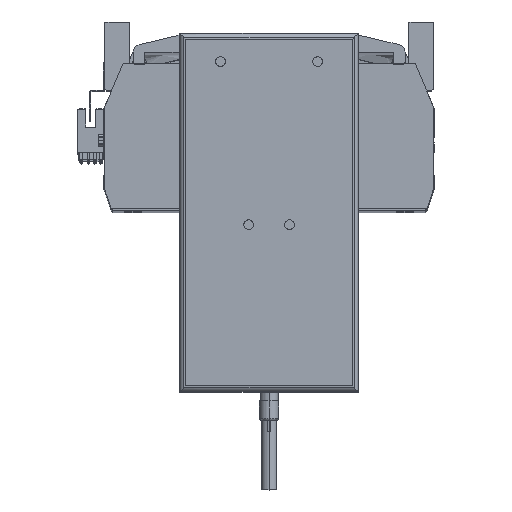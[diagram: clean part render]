
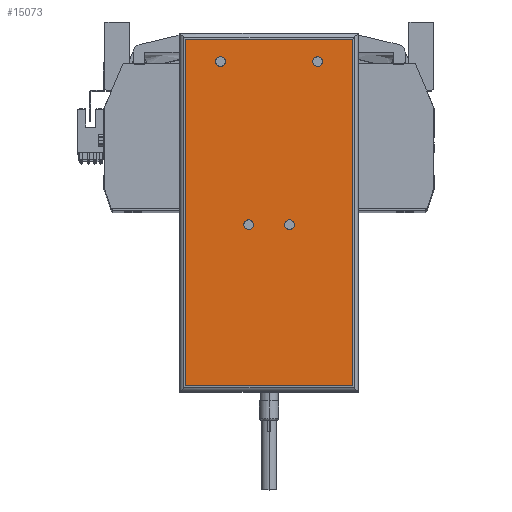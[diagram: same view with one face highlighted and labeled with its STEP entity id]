
A CAD part, top view. The second image highlights one B-rep face of the part: STEP entity #15073.
In plain terms, the highlighted planar face has unit normal (0, 0, 1) as drawn and (0, 0, -1) by its records, which use the part's own axes.
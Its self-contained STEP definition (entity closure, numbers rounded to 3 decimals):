
#243 = CARTESIAN_POINT ( 'NONE',  ( -8., -6.25, 0. ) ) ;
#303 = CARTESIAN_POINT ( 'NONE',  ( -43., -89.25, 0. ) ) ;
#1317 = CIRCLE ( 'NONE', #20895, 2.5 ) ;
#1759 = DIRECTION ( 'NONE',  ( -1., 0., 0. ) ) ;
#1980 = DIRECTION ( 'NONE',  ( 0., 0., -1. ) ) ;
#2183 = DIRECTION ( 'NONE',  ( 1., 0., 0. ) ) ;
#2535 = CARTESIAN_POINT ( 'NONE',  ( -46., 89.25, 0. ) ) ;
#2819 = VERTEX_POINT ( 'NONE', #6507 ) ;
#3777 = EDGE_LOOP ( 'NONE', ( #29720, #37623 ) ) ;
#4108 = CIRCLE ( 'NONE', #26205, 2.5 ) ;
#4804 = ORIENTED_EDGE ( 'NONE', *, *, #35329, .F. ) ;
#5336 = AXIS2_PLACEMENT_3D ( 'NONE', #9929, #21470, #41698 ) ;
#5405 = EDGE_CURVE ( 'NONE', #17069, #5987, #39876, .T. ) ;
#5489 = VECTOR ( 'NONE', #13042, 1000. ) ;
#5766 = VERTEX_POINT ( 'NONE', #18197 ) ;
#5890 = VERTEX_POINT ( 'NONE', #14776 ) ;
#5987 = VERTEX_POINT ( 'NONE', #11687 ) ;
#6127 = ORIENTED_EDGE ( 'NONE', *, *, #16906, .F. ) ;
#6215 = AXIS2_PLACEMENT_3D ( 'NONE', #45069, #21388, #1759 ) ;
#6507 = CARTESIAN_POINT ( 'NONE',  ( 8., -6.25, 0. ) ) ;
#6580 = LINE ( 'NONE', #2535, #41804 ) ;
#6918 = EDGE_CURVE ( 'NONE', #46617, #37135, #27904, .T. ) ;
#7371 = EDGE_CURVE ( 'NONE', #7482, #16079, #40201, .T. ) ;
#7390 = LINE ( 'NONE', #40881, #5489 ) ;
#7482 = VERTEX_POINT ( 'NONE', #37338 ) ;
#7593 = EDGE_LOOP ( 'NONE', ( #50857, #47401, #8064, #41775 ) ) ;
#7703 = CARTESIAN_POINT ( 'NONE',  ( -13., -6.25, 0. ) ) ;
#8064 = ORIENTED_EDGE ( 'NONE', *, *, #6918, .T. ) ;
#9585 = AXIS2_PLACEMENT_3D ( 'NONE', #16601, #44269, #48723 ) ;
#9929 = CARTESIAN_POINT ( 'NONE',  ( -25., 77.75, 0. ) ) ;
#10130 = VECTOR ( 'NONE', #42955, 1000. ) ;
#11314 = EDGE_CURVE ( 'NONE', #16079, #7482, #35579, .T. ) ;
#11687 = CARTESIAN_POINT ( 'NONE',  ( 22.5, 77.75, 0. ) ) ;
#11870 = CIRCLE ( 'NONE', #41001, 2.5 ) ;
#11877 = EDGE_LOOP ( 'NONE', ( #12821, #31296 ) ) ;
#12821 = ORIENTED_EDGE ( 'NONE', *, *, #19943, .F. ) ;
#13042 = DIRECTION ( 'NONE',  ( 0., -1., 0. ) ) ;
#14776 = CARTESIAN_POINT ( 'NONE',  ( 43., -89.25, 0. ) ) ;
#15073 = ADVANCED_FACE ( 'NONE', ( #38997, #33401, #16701, #47037, #36490 ), #24367, .F. ) ;
#16045 = CARTESIAN_POINT ( 'NONE',  ( 10.5, -6.25, 0. ) ) ;
#16079 = VERTEX_POINT ( 'NONE', #48289 ) ;
#16168 = EDGE_CURVE ( 'NONE', #31953, #5890, #7390, .T. ) ;
#16601 = CARTESIAN_POINT ( 'NONE',  ( -46., -92.25, 0. ) ) ;
#16701 = FACE_BOUND ( 'NONE', #37000, .T. ) ;
#16906 = EDGE_CURVE ( 'NONE', #5766, #2819, #36283, .T. ) ;
#17040 = AXIS2_PLACEMENT_3D ( 'NONE', #26998, #46884, #19203 ) ;
#17069 = VERTEX_POINT ( 'NONE', #30303 ) ;
#17780 = DIRECTION ( 'NONE',  ( -1., 0., 0. ) ) ;
#17954 = ORIENTED_EDGE ( 'NONE', *, *, #7371, .F. ) ;
#18197 = CARTESIAN_POINT ( 'NONE',  ( 13., -6.25, 0. ) ) ;
#19203 = DIRECTION ( 'NONE',  ( -1., 0., 0. ) ) ;
#19943 = EDGE_CURVE ( 'NONE', #20147, #33194, #26259, .T. ) ;
#20147 = VERTEX_POINT ( 'NONE', #7703 ) ;
#20362 = DIRECTION ( 'NONE',  ( -1., 0., 0. ) ) ;
#20842 = EDGE_CURVE ( 'NONE', #5890, #46617, #37288, .T. ) ;
#20895 = AXIS2_PLACEMENT_3D ( 'NONE', #45273, #1980, #17780 ) ;
#21388 = DIRECTION ( 'NONE',  ( 0., 0., -1. ) ) ;
#21470 = DIRECTION ( 'NONE',  ( 0., 0., -1. ) ) ;
#22118 = EDGE_CURVE ( 'NONE', #33194, #20147, #11870, .T. ) ;
#22449 = CARTESIAN_POINT ( 'NONE',  ( -10.5, -6.25, 0. ) ) ;
#23679 = DIRECTION ( 'NONE',  ( 0., 1., 0. ) ) ;
#23758 = DIRECTION ( 'NONE',  ( -1., 0., 0. ) ) ;
#24168 = CARTESIAN_POINT ( 'NONE',  ( -43., -92.25, 0. ) ) ;
#24367 = PLANE ( 'NONE',  #9585 ) ;
#25707 = DIRECTION ( 'NONE',  ( 0., 0., -1. ) ) ;
#26148 = DIRECTION ( 'NONE',  ( -1., 0., 0. ) ) ;
#26205 = AXIS2_PLACEMENT_3D ( 'NONE', #33557, #49968, #26148 ) ;
#26259 = CIRCLE ( 'NONE', #6215, 2.5 ) ;
#26998 = CARTESIAN_POINT ( 'NONE',  ( -25., 77.75, 0. ) ) ;
#27904 = LINE ( 'NONE', #24168, #47680 ) ;
#29720 = ORIENTED_EDGE ( 'NONE', *, *, #45786, .F. ) ;
#29987 = CARTESIAN_POINT ( 'NONE',  ( 43., 89.25, 0. ) ) ;
#30221 = DIRECTION ( 'NONE',  ( -1., 0., 0. ) ) ;
#30303 = CARTESIAN_POINT ( 'NONE',  ( 27.5, 77.75, 0. ) ) ;
#31296 = ORIENTED_EDGE ( 'NONE', *, *, #22118, .F. ) ;
#31953 = VERTEX_POINT ( 'NONE', #29987 ) ;
#33194 = VERTEX_POINT ( 'NONE', #243 ) ;
#33401 = FACE_BOUND ( 'NONE', #11877, .T. ) ;
#33557 = CARTESIAN_POINT ( 'NONE',  ( 25., 77.75, 0. ) ) ;
#34770 = ORIENTED_EDGE ( 'NONE', *, *, #11314, .F. ) ;
#35329 = EDGE_CURVE ( 'NONE', #2819, #5766, #1317, .T. ) ;
#35500 = CARTESIAN_POINT ( 'NONE',  ( 25., 77.75, 0. ) ) ;
#35579 = CIRCLE ( 'NONE', #17040, 2.5 ) ;
#36283 = CIRCLE ( 'NONE', #42463, 2.5 ) ;
#36345 = EDGE_LOOP ( 'NONE', ( #17954, #34770 ) ) ;
#36490 = FACE_BOUND ( 'NONE', #3777, .T. ) ;
#37000 = EDGE_LOOP ( 'NONE', ( #4804, #6127 ) ) ;
#37135 = VERTEX_POINT ( 'NONE', #44717 ) ;
#37288 = LINE ( 'NONE', #38965, #10130 ) ;
#37338 = CARTESIAN_POINT ( 'NONE',  ( -27.5, 77.75, 0. ) ) ;
#37623 = ORIENTED_EDGE ( 'NONE', *, *, #5405, .F. ) ;
#38965 = CARTESIAN_POINT ( 'NONE',  ( -46., -89.25, 0. ) ) ;
#38997 = FACE_OUTER_BOUND ( 'NONE', #7593, .T. ) ;
#39876 = CIRCLE ( 'NONE', #40370, 2.5 ) ;
#40201 = CIRCLE ( 'NONE', #5336, 2.5 ) ;
#40370 = AXIS2_PLACEMENT_3D ( 'NONE', #35500, #42986, #23758 ) ;
#40881 = CARTESIAN_POINT ( 'NONE',  ( 43., -92.25, 0. ) ) ;
#41001 = AXIS2_PLACEMENT_3D ( 'NONE', #22449, #25707, #30221 ) ;
#41698 = DIRECTION ( 'NONE',  ( -1., 0., 0. ) ) ;
#41775 = ORIENTED_EDGE ( 'NONE', *, *, #49623, .T. ) ;
#41804 = VECTOR ( 'NONE', #2183, 1000. ) ;
#42463 = AXIS2_PLACEMENT_3D ( 'NONE', #16045, #47330, #20362 ) ;
#42955 = DIRECTION ( 'NONE',  ( -1., 0., 0. ) ) ;
#42986 = DIRECTION ( 'NONE',  ( 0., 0., -1. ) ) ;
#44269 = DIRECTION ( 'NONE',  ( 0., 0., 1. ) ) ;
#44717 = CARTESIAN_POINT ( 'NONE',  ( -43., 89.25, 0. ) ) ;
#45069 = CARTESIAN_POINT ( 'NONE',  ( -10.5, -6.25, 0. ) ) ;
#45273 = CARTESIAN_POINT ( 'NONE',  ( 10.5, -6.25, 0. ) ) ;
#45786 = EDGE_CURVE ( 'NONE', #5987, #17069, #4108, .T. ) ;
#46617 = VERTEX_POINT ( 'NONE', #303 ) ;
#46884 = DIRECTION ( 'NONE',  ( 0., 0., -1. ) ) ;
#47037 = FACE_BOUND ( 'NONE', #36345, .T. ) ;
#47330 = DIRECTION ( 'NONE',  ( 0., 0., -1. ) ) ;
#47401 = ORIENTED_EDGE ( 'NONE', *, *, #20842, .T. ) ;
#47680 = VECTOR ( 'NONE', #23679, 1000. ) ;
#48289 = CARTESIAN_POINT ( 'NONE',  ( -22.5, 77.75, 0. ) ) ;
#48723 = DIRECTION ( 'NONE',  ( 1., 0., 0. ) ) ;
#49623 = EDGE_CURVE ( 'NONE', #37135, #31953, #6580, .T. ) ;
#49968 = DIRECTION ( 'NONE',  ( 0., 0., -1. ) ) ;
#50857 = ORIENTED_EDGE ( 'NONE', *, *, #16168, .T. ) ;
